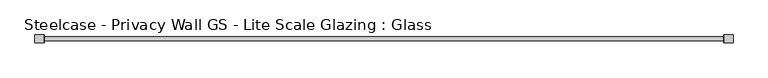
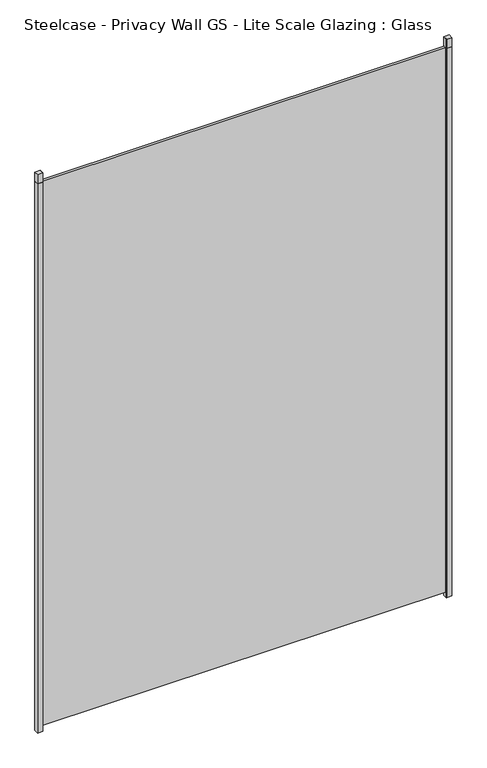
"""IFC4 building model written with IfcOpenShell, lengths in millimetres: plate geometry, Steelcase - Privacy Wall GS - Lite Scale Glazing : Glass."""

from ifc_helpers import new_model, si_unit, frame, origin, origin_with_axes, place, context, project, spatial, polyline, outline, extrude, source, transform, mapped, element, save


def steelcase_privacy_wall_gs_lite_scale_glazing_glass_e867c78d(model_context):
    return source(origin(), model_context, "Body", "SweptSolid", [
        extrude(outline(polyline([(1042.428729, 11.7474777), (1069.4161957, 11.7474777), (1069.4161957, -11.7475002), (1042.428729, -11.7475002), (1042.428729, 11.7474777)])), frame((0.0, 0.0, 2970.784), z_axis=(0.0, 0.0, 1.0), x_axis=(1.0, 0.0, 0.0)), (0.0, 0.0, 1.0), 49.276),
        extrude(outline(polyline([(1069.4161957, 11.7474777), (1069.4161957, -11.7475002), (1042.428729, -11.7475002), (1042.428729, -6.3896792), (1064.9239708, -6.3896792), (1064.9239708, 6.3500051), (1042.428729, 6.3500051), (1042.428729, 11.7474777), (1069.4161957, 11.7474777)])), frame((0.0, 0.0, -27.8638004), z_axis=(0.0, 0.0, 1.0), x_axis=(1.0, 0.0, 0.0)), (0.0, 0.0, 1.0), 2998.6478004),
        extrude(outline(polyline([(1042.428729, 11.7474777), (1042.428729, -11.7474954), (1041.4, -11.7474954), (1041.4, 11.7474777), (1042.428729, 11.7474777)])), frame((0.0, 0.0, -27.8638004), z_axis=(0.0, 0.0, 1.0), x_axis=(1.0, 0.0, 0.0)), (0.0, 0.0, 1.0), 3047.9238004),
        extrude(outline(polyline([(-1042.428729, 11.7474777), (-1042.428729, -11.7475002), (-1069.4161957, -11.7475002), (-1069.4161957, 11.7474777), (-1042.428729, 11.7474777)])), frame((0.0, 0.0, 2970.784), z_axis=(0.0, 0.0, 1.0), x_axis=(1.0, 0.0, 0.0)), (0.0, 0.0, 1.0), 49.276),
        extrude(outline(polyline([(-1069.4161957, 11.7474777), (-1042.428729, 11.7474777), (-1042.428729, 6.3500051), (-1064.9239708, 6.3500051), (-1064.9239708, -6.3896792), (-1042.428729, -6.3896792), (-1042.428729, -11.7475002), (-1069.4161957, -11.7475002), (-1069.4161957, 11.7474777)])), frame((0.0, 0.0, -27.8638004), z_axis=(0.0, 0.0, 1.0), x_axis=(1.0, 0.0, 0.0)), (0.0, 0.0, 1.0), 2998.6478004),
        extrude(outline(polyline([(-1042.428729, 11.7474777), (-1041.4, 11.7474777), (-1041.4, -11.7474954), (-1042.428729, -11.7474954), (-1042.428729, 11.7474777)])), frame((0.0, 0.0, -27.8638004), z_axis=(0.0, 0.0, 1.0), x_axis=(1.0, 0.0, 0.0)), (0.0, 0.0, 1.0), 3047.9238004),
        extrude(outline(polyline([(-1039.368, -6.349956), (-1039.368, 6.3502015), (1039.368, 6.3502015), (1039.368, -6.349956), (-1039.368, -6.349956)])), origin_with_axes(), (0.0, 0.0, 1.0), 2970.784),
    ])


if __name__ == "__main__":
    model = new_model("IFC4")
    model_context = context("Model", 3, world=origin())
    ifc_project = project(units=[si_unit("LENGTHUNIT", "METRE", prefix="MILLI")], contexts=[model_context])
    site = spatial("IfcSite", under=ifc_project)
    building = spatial("IfcBuilding", under=site)
    placement = place(None, origin())
    steelcase_privacy_wall_gs_lite_scale_glazing_glass_shape = steelcase_privacy_wall_gs_lite_scale_glazing_glass_e867c78d(model_context)
    element("IfcPlate", 1, ObjectType="Steelcase - Privacy Wall GS - Lite Scale Glazing : Glass", at=placement, inside=building, context=model_context, shape_type="MappedRepresentation", body=[
        mapped(steelcase_privacy_wall_gs_lite_scale_glazing_glass_shape, transform((0.0, 0.0, 0.0), x_axis=(1.0, 0.0, 0.0), y_axis=(0.0, 1.0, 0.0), z_axis=(0.0, 0.0, 1.0))),
    ])
    save(model, "model.ifc")
